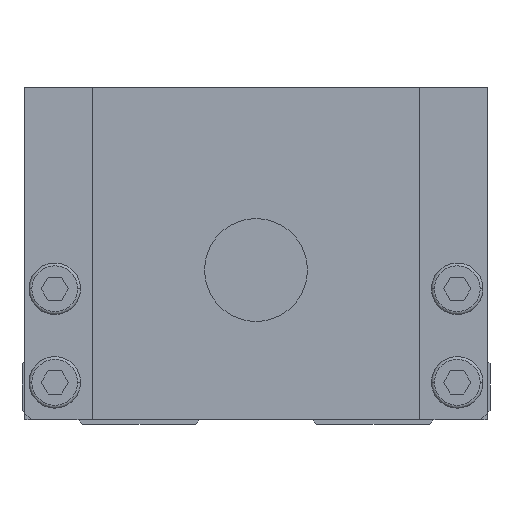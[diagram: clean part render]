
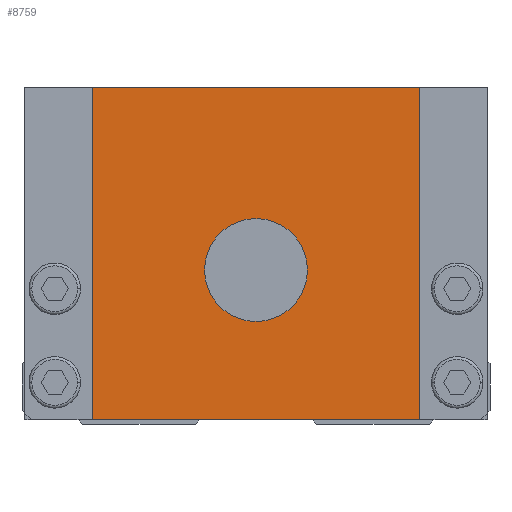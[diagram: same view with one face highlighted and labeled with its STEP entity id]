
A CAD part, front view. The second image highlights one B-rep face of the part: STEP entity #8759.
In plain terms, the highlighted planar face has unit normal (0, -1, 0).
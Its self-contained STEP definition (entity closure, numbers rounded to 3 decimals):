
#5247=VERTEX_POINT('',#14731);
#5535=EDGE_CURVE('',#12355,#10321,#15049,.T.);
#5611=EDGE_CURVE('',#5247,#7331,#15133,.T.);
#5713=EDGE_CURVE('',#6115,#12661,#15249,.T.);
#6115=VERTEX_POINT('',#15700);
#7261=EDGE_CURVE('',#7331,#12661,#16948,.T.);
#7331=VERTEX_POINT('',#17024);
#8097=EDGE_CURVE('',#6115,#5247,#17876,.T.);
#8759=ADVANCED_FACE('',(#18606,#18607),#18608,.F.);
#10321=VERTEX_POINT('',#20362);
#11951=EDGE_CURVE('',#10321,#12355,#22168,.T.);
#12355=VERTEX_POINT('',#22625);
#12661=VERTEX_POINT('',#22957);
#14731=CARTESIAN_POINT('',(17.5,0.0,36.0));
#15049=CIRCLE('',#25911,5.5);
#15133=LINE('',#26017,#26018);
#15249=LINE('',#26168,#26169);
#15700=CARTESIAN_POINT('',(-17.5,0.0,36.0));
#16948=LINE('',#28789,#28790);
#17024=CARTESIAN_POINT('',(17.5,0.0,0.5));
#17876=LINE('',#30167,#30168);
#18606=FACE_BOUND('',#31205,.T.);
#18607=FACE_OUTER_BOUND('',#31206,.T.);
#18608=PLANE('',#31207);
#20362=CARTESIAN_POINT('',(5.5,0.0,16.5));
#22168=CIRCLE('',#36449,5.5);
#22625=CARTESIAN_POINT('',(-5.5,0.0,16.5));
#22957=CARTESIAN_POINT('',(-17.5,0.0,0.5));
#25911=AXIS2_PLACEMENT_3D('',#40887,#40888,#40889);
#26017=CARTESIAN_POINT('',(17.5,0.0,18.25));
#26018=VECTOR('',#40973,1.0);
#26168=CARTESIAN_POINT('',(-17.5,0.0,18.25));
#26169=VECTOR('',#41145,1.0);
#28789=CARTESIAN_POINT('',(0.0,0.0,0.5));
#28790=VECTOR('',#43034,1.0);
#30167=CARTESIAN_POINT('',(0.0,0.0,36.0));
#30168=VECTOR('',#44081,1.0);
#31205=EDGE_LOOP('',(#44895,#44896));
#31206=EDGE_LOOP('',(#44897,#44898,#44899,#44900));
#31207=AXIS2_PLACEMENT_3D('',#44901,#44902,#44903);
#36449=AXIS2_PLACEMENT_3D('',#49065,#49066,#49067);
#40887=CARTESIAN_POINT('',(0.0,0.0,16.5));
#40888=DIRECTION('',(-0.0,1.0,0.0));
#40889=DIRECTION('',(1.0,0.0,0.0));
#40973=DIRECTION('',(0.0,0.0,-1.0));
#41145=DIRECTION('',(0.0,0.0,-1.0));
#43034=DIRECTION('',(-1.0,0.0,0.0));
#44081=DIRECTION('',(1.0,0.0,0.0));
#44895=ORIENTED_EDGE('',*,*,#11951,.T.);
#44896=ORIENTED_EDGE('',*,*,#5535,.T.);
#44897=ORIENTED_EDGE('',*,*,#5713,.T.);
#44898=ORIENTED_EDGE('',*,*,#7261,.F.);
#44899=ORIENTED_EDGE('',*,*,#5611,.F.);
#44900=ORIENTED_EDGE('',*,*,#8097,.F.);
#44901=CARTESIAN_POINT('',(0.0,0.0,18.25));
#44902=DIRECTION('',(0.0,1.0,0.0));
#44903=DIRECTION('',(0.0,0.0,1.0));
#49065=CARTESIAN_POINT('',(0.0,0.0,16.5));
#49066=DIRECTION('',(-0.0,1.0,0.0));
#49067=DIRECTION('',(1.0,0.0,0.0));
